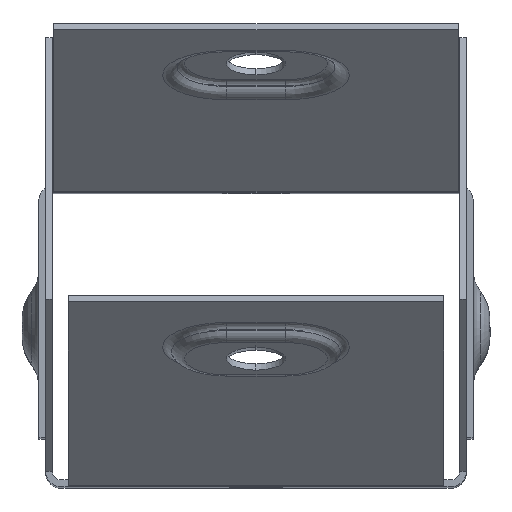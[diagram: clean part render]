
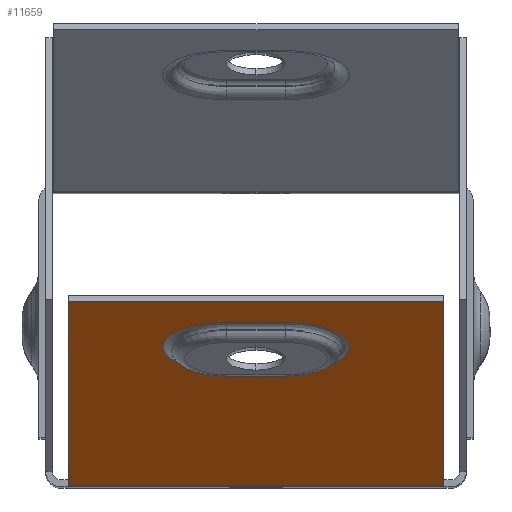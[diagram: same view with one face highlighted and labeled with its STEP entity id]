
A CAD part, top view. The second image highlights one B-rep face of the part: STEP entity #11659.
In plain terms, the highlighted planar face has unit normal (0, -0.924, 0.383).
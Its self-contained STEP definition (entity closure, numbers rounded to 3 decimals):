
#426 = CARTESIAN_POINT ( 'NONE',  ( 23.2, -35.8, 55.085 ) ) ;
#495 = VECTOR ( 'NONE', #4060, 1000. ) ;
#843 = CARTESIAN_POINT ( 'NONE',  ( 22.299, -35.864, 54.931 ) ) ;
#939 = VERTEX_POINT ( 'NONE', #2000 ) ;
#984 = DIRECTION ( 'NONE',  ( -1., 0., 0. ) ) ;
#1028 = CARTESIAN_POINT ( 'NONE',  ( -3.5, -22.195, 87.931 ) ) ;
#1034 = CARTESIAN_POINT ( 'NONE',  ( 3.5, -16.38, 101.97 ) ) ;
#1281 = ORIENTED_EDGE ( 'NONE', *, *, #7664, .T. ) ;
#1296 = LINE ( 'NONE', #12221, #3749 ) ;
#1399 = VERTEX_POINT ( 'NONE', #5255 ) ;
#1410 = VECTOR ( 'NONE', #3097, 1000. ) ;
#1549 = LINE ( 'NONE', #6095, #12100 ) ;
#1691 = ORIENTED_EDGE ( 'NONE', *, *, #9060, .T. ) ;
#1743 = CARTESIAN_POINT ( 'NONE',  ( -3.5, -19.287, 94.95 ) ) ;
#1840 = VERTEX_POINT ( 'NONE', #3066 ) ;
#1914 = DIRECTION ( 'NONE',  ( 0., 0.924, -0.383 ) ) ;
#1998 = CARTESIAN_POINT ( 'NONE',  ( -22.299, -35.8, 55.085 ) ) ;
#2000 = CARTESIAN_POINT ( 'NONE',  ( 3.5, -22.195, 87.931 ) ) ;
#2311 = EDGE_CURVE ( 'NONE', #11194, #1399, #8763, .T. ) ;
#2867 = LINE ( 'NONE', #8491, #1410 ) ;
#2989 = DIRECTION ( 'NONE',  ( -1., 0., 0. ) ) ;
#3041 = EDGE_LOOP ( 'NONE', ( #7264, #5689, #13414, #7608 ) ) ;
#3066 = CARTESIAN_POINT ( 'NONE',  ( -3.5, -16.38, 101.97 ) ) ;
#3097 = DIRECTION ( 'NONE',  ( 1., 0., 0. ) ) ;
#3749 = VECTOR ( 'NONE', #984, 1000. ) ;
#3881 = AXIS2_PLACEMENT_3D ( 'NONE', #426, #8716, #9757 ) ;
#4060 = DIRECTION ( 'NONE',  ( 0., -0.383, -0.924 ) ) ;
#4297 = CARTESIAN_POINT ( 'NONE',  ( 22.299, -13.93, 107.885 ) ) ;
#4368 = AXIS2_PLACEMENT_3D ( 'NONE', #12636, #9385, #11620 ) ;
#4462 = VERTEX_POINT ( 'NONE', #4297 ) ;
#4887 = FACE_OUTER_BOUND ( 'NONE', #3041, .T. ) ;
#4945 = DIRECTION ( 'NONE',  ( -1., 0., 0. ) ) ;
#5008 = VERTEX_POINT ( 'NONE', #6345 ) ;
#5148 = EDGE_LOOP ( 'NONE', ( #1281, #1691, #12822, #6679 ) ) ;
#5255 = CARTESIAN_POINT ( 'NONE',  ( -22.299, -35.663, 55.416 ) ) ;
#5689 = ORIENTED_EDGE ( 'NONE', *, *, #5970, .F. ) ;
#5970 = EDGE_CURVE ( 'NONE', #5008, #1399, #1296, .T. ) ;
#5995 = FACE_BOUND ( 'NONE', #5148, .T. ) ;
#6022 = VERTEX_POINT ( 'NONE', #1028 ) ;
#6095 = CARTESIAN_POINT ( 'NONE',  ( 3.5, -22.195, 87.931 ) ) ;
#6290 = AXIS2_PLACEMENT_3D ( 'NONE', #1743, #1914, #9402 ) ;
#6345 = CARTESIAN_POINT ( 'NONE',  ( 22.299, -35.663, 55.416 ) ) ;
#6629 = PLANE ( 'NONE',  #3881 ) ;
#6679 = ORIENTED_EDGE ( 'NONE', *, *, #12653, .T. ) ;
#6774 = CARTESIAN_POINT ( 'NONE',  ( -22.299, -13.93, 107.885 ) ) ;
#6990 = CARTESIAN_POINT ( 'NONE',  ( 23.2, -13.93, 107.885 ) ) ;
#7228 = CIRCLE ( 'NONE', #4368, 7.598 ) ;
#7264 = ORIENTED_EDGE ( 'NONE', *, *, #2311, .T. ) ;
#7608 = ORIENTED_EDGE ( 'NONE', *, *, #7984, .T. ) ;
#7664 = EDGE_CURVE ( 'NONE', #1840, #11906, #2867, .T. ) ;
#7984 = EDGE_CURVE ( 'NONE', #4462, #11194, #11472, .T. ) ;
#8134 = EDGE_CURVE ( 'NONE', #939, #6022, #1549, .T. ) ;
#8491 = CARTESIAN_POINT ( 'NONE',  ( 3.5, -16.38, 101.97 ) ) ;
#8716 = DIRECTION ( 'NONE',  ( 0., 0.924, -0.383 ) ) ;
#8763 = LINE ( 'NONE', #1998, #495 ) ;
#9060 = EDGE_CURVE ( 'NONE', #11906, #939, #7228, .T. ) ;
#9385 = DIRECTION ( 'NONE',  ( 0., 0.924, -0.383 ) ) ;
#9402 = DIRECTION ( 'NONE',  ( 0., 0.383, 0.924 ) ) ;
#9571 = LINE ( 'NONE', #843, #12160 ) ;
#9757 = DIRECTION ( 'NONE',  ( 0., 0.383, 0.924 ) ) ;
#11194 = VERTEX_POINT ( 'NONE', #6774 ) ;
#11472 = LINE ( 'NONE', #6990, #12911 ) ;
#11620 = DIRECTION ( 'NONE',  ( 0., 0.383, 0.924 ) ) ;
#11659 = ADVANCED_FACE ( 'NONE', ( #5995, #4887 ), #6629, .F. ) ;
#11906 = VERTEX_POINT ( 'NONE', #1034 ) ;
#12100 = VECTOR ( 'NONE', #2989, 1000. ) ;
#12160 = VECTOR ( 'NONE', #13076, 1000. ) ;
#12221 = CARTESIAN_POINT ( 'NONE',  ( 23.2, -35.663, 55.416 ) ) ;
#12636 = CARTESIAN_POINT ( 'NONE',  ( 3.5, -19.287, 94.95 ) ) ;
#12653 = EDGE_CURVE ( 'NONE', #6022, #1840, #12976, .T. ) ;
#12822 = ORIENTED_EDGE ( 'NONE', *, *, #8134, .T. ) ;
#12911 = VECTOR ( 'NONE', #4945, 1000. ) ;
#12976 = CIRCLE ( 'NONE', #6290, 7.598 ) ;
#12997 = EDGE_CURVE ( 'NONE', #5008, #4462, #9571, .T. ) ;
#13076 = DIRECTION ( 'NONE',  ( 0., 0.383, 0.924 ) ) ;
#13414 = ORIENTED_EDGE ( 'NONE', *, *, #12997, .T. ) ;
